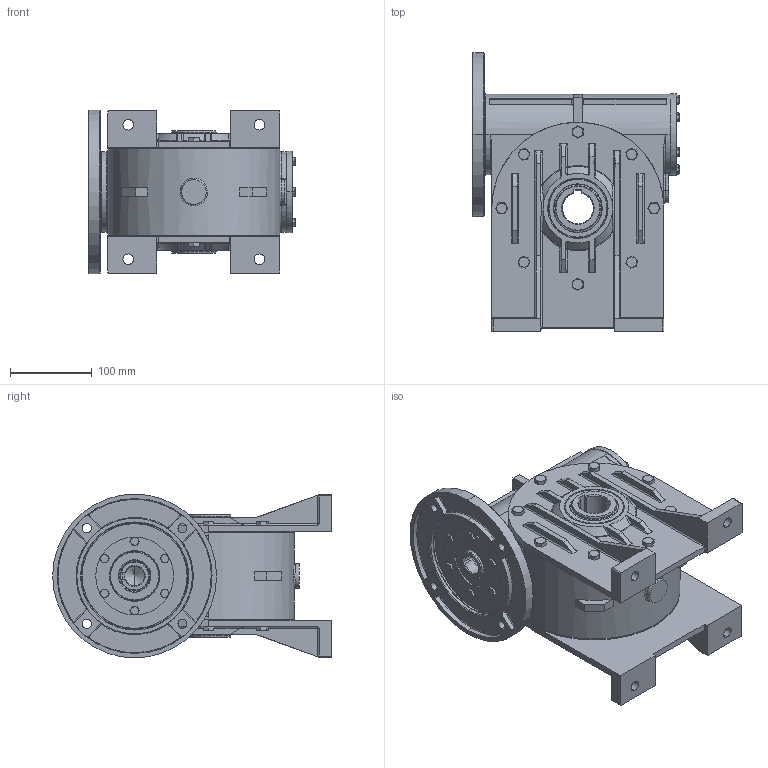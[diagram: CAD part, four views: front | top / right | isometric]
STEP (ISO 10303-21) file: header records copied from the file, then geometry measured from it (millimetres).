
FILE_DESCRIPTION (( 'STEP AP203' ), '1' );
FILE_NAME ('3F002315.STEP', '2012-07-24T05:45:55', ( 'Amministratore' ), ( 'SerteK sas' ), 'SwSTEP 2.0', 'SolidWorks 2009', '' );
FILE_SCHEMA (( 'CONFIG_CONTROL_DESIGN' ));
Length unit declared in the file: millimetre
Products named in the file (1): 3F002315
Bounding box: 251.5 x 340 x 200 mm (x, y, z)
Surface area: 759700.2 mm2 (no closed solid volume)
Topology: 0 solids, 48 shells, 2373 faces, 5785 edges, 3517 vertices
Faces by surface type: cylinder 747, plane 710, bspline 613, cone 303
Entity records: 100970 total; most frequent: CARTESIAN_POINT 48746, ORIENTED_EDGE 11312, DIRECTION 10408, EDGE_CURVE 5676, AXIS2_PLACEMENT_3D 4128, VERTEX_POINT 3517, EDGE_LOOP 2591, FACE_OUTER_BOUND 2373
